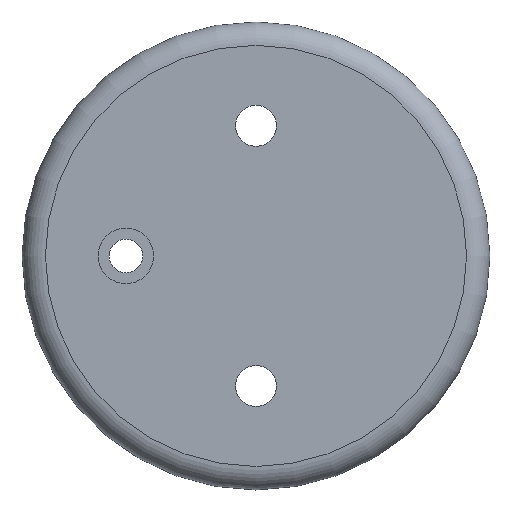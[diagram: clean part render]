
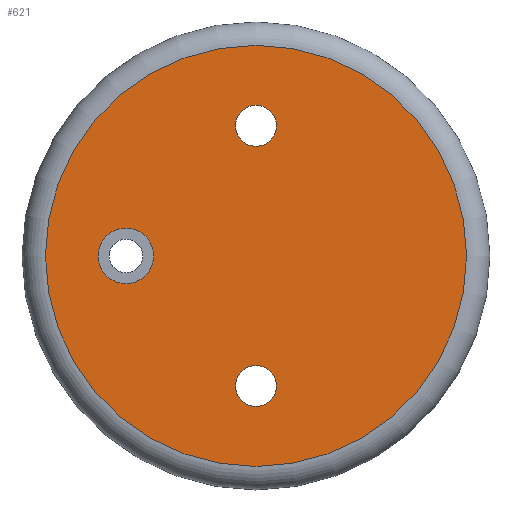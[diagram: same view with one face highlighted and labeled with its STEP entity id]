
A CAD part, top view. The second image highlights one B-rep face of the part: STEP entity #621.
In plain terms, the highlighted planar face has unit normal (0, 0, 1).
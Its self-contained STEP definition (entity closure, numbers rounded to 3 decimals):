
#257 = CYLINDRICAL_SURFACE('',#258,7.);
#258 = AXIS2_PLACEMENT_3D('',#259,#260,#261);
#259 = CARTESIAN_POINT('',(0.,-44.5,1.));
#260 = DIRECTION('',(0.,0.,-1.));
#261 = DIRECTION('',(-1.,0.,-0.));
#292 = CYLINDRICAL_SURFACE('',#293,7.);
#293 = AXIS2_PLACEMENT_3D('',#294,#295,#296);
#294 = CARTESIAN_POINT('',(0.,44.5,1.));
#295 = DIRECTION('',(0.,0.,-1.));
#296 = DIRECTION('',(-1.,0.,-0.));
#424 = VERTEX_POINT('',#425);
#425 = CARTESIAN_POINT('',(-7.,-44.5,0.));
#446 = EDGE_CURVE('',#424,#424,#447,.T.);
#447 = SURFACE_CURVE('',#448,(#453,#460),.PCURVE_S1.);
#448 = CIRCLE('',#449,7.);
#449 = AXIS2_PLACEMENT_3D('',#450,#451,#452);
#450 = CARTESIAN_POINT('',(0.,-44.5,0.));
#451 = DIRECTION('',(0.,0.,-1.));
#452 = DIRECTION('',(-1.,0.,-0.));
#453 = PCURVE('',#257,#454);
#454 = DEFINITIONAL_REPRESENTATION('',(#455),#459);
#455 = LINE('',#456,#457);
#456 = CARTESIAN_POINT('',(0.,1.));
#457 = VECTOR('',#458,1.);
#458 = DIRECTION('',(1.,0.));
#459 = ( GEOMETRIC_REPRESENTATION_CONTEXT(2) 
PARAMETRIC_REPRESENTATION_CONTEXT() REPRESENTATION_CONTEXT('2D SPACE',''
  ) );
#460 = PCURVE('',#461,#466);
#461 = PLANE('',#462);
#462 = AXIS2_PLACEMENT_3D('',#463,#464,#465);
#463 = CARTESIAN_POINT('',(0.,0.,0.));
#464 = DIRECTION('',(0.,0.,1.));
#465 = DIRECTION('',(1.,0.,-0.));
#466 = DEFINITIONAL_REPRESENTATION('',(#467),#475);
#467 = ( BOUNDED_CURVE() B_SPLINE_CURVE(2,(#468,#469,#470,#471,#472,#473
,#474),.UNSPECIFIED.,.T.,.F.) B_SPLINE_CURVE_WITH_KNOTS((1,2,2,2,2,1),(
    -2.094,0.,2.094,4.189,6.283,
8.378),.UNSPECIFIED.) CURVE() GEOMETRIC_REPRESENTATION_ITEM() 
RATIONAL_B_SPLINE_CURVE((1.,0.5,1.,0.5,1.,0.5,1.)) REPRESENTATION_ITEM(
  '') );
#468 = CARTESIAN_POINT('',(-7.,-44.5));
#469 = CARTESIAN_POINT('',(-7.,-32.376));
#470 = CARTESIAN_POINT('',(3.5,-38.438));
#471 = CARTESIAN_POINT('',(14.,-44.5));
#472 = CARTESIAN_POINT('',(3.5,-50.562));
#473 = CARTESIAN_POINT('',(-7.,-56.624));
#474 = CARTESIAN_POINT('',(-7.,-44.5));
#475 = ( GEOMETRIC_REPRESENTATION_CONTEXT(2) 
PARAMETRIC_REPRESENTATION_CONTEXT() REPRESENTATION_CONTEXT('2D SPACE',''
  ) );
#483 = VERTEX_POINT('',#484);
#484 = CARTESIAN_POINT('',(-7.,44.5,0.));
#505 = EDGE_CURVE('',#483,#483,#506,.T.);
#506 = SURFACE_CURVE('',#507,(#512,#519),.PCURVE_S1.);
#507 = CIRCLE('',#508,7.);
#508 = AXIS2_PLACEMENT_3D('',#509,#510,#511);
#509 = CARTESIAN_POINT('',(0.,44.5,0.));
#510 = DIRECTION('',(0.,0.,-1.));
#511 = DIRECTION('',(-1.,0.,-0.));
#512 = PCURVE('',#292,#513);
#513 = DEFINITIONAL_REPRESENTATION('',(#514),#518);
#514 = LINE('',#515,#516);
#515 = CARTESIAN_POINT('',(0.,1.));
#516 = VECTOR('',#517,1.);
#517 = DIRECTION('',(1.,0.));
#518 = ( GEOMETRIC_REPRESENTATION_CONTEXT(2) 
PARAMETRIC_REPRESENTATION_CONTEXT() REPRESENTATION_CONTEXT('2D SPACE',''
  ) );
#519 = PCURVE('',#461,#520);
#520 = DEFINITIONAL_REPRESENTATION('',(#521),#529);
#521 = ( BOUNDED_CURVE() B_SPLINE_CURVE(2,(#522,#523,#524,#525,#526,#527
,#528),.UNSPECIFIED.,.T.,.F.) B_SPLINE_CURVE_WITH_KNOTS((1,2,2,2,2,1),(
    -2.094,0.,2.094,4.189,6.283,
8.378),.UNSPECIFIED.) CURVE() GEOMETRIC_REPRESENTATION_ITEM() 
RATIONAL_B_SPLINE_CURVE((1.,0.5,1.,0.5,1.,0.5,1.)) REPRESENTATION_ITEM(
  '') );
#522 = CARTESIAN_POINT('',(-7.,44.5));
#523 = CARTESIAN_POINT('',(-7.,56.624));
#524 = CARTESIAN_POINT('',(3.5,50.562));
#525 = CARTESIAN_POINT('',(14.,44.5));
#526 = CARTESIAN_POINT('',(3.5,38.438));
#527 = CARTESIAN_POINT('',(-7.,32.376));
#528 = CARTESIAN_POINT('',(-7.,44.5));
#529 = ( GEOMETRIC_REPRESENTATION_CONTEXT(2) 
PARAMETRIC_REPRESENTATION_CONTEXT() REPRESENTATION_CONTEXT('2D SPACE',''
  ) );
#552 = CYLINDRICAL_SURFACE('',#553,9.5);
#553 = AXIS2_PLACEMENT_3D('',#554,#555,#556);
#554 = CARTESIAN_POINT('',(-44.5,0.,-0.5));
#555 = DIRECTION('',(0.,0.,1.));
#556 = DIRECTION('',(1.,0.,-0.));
#621 = ADVANCED_FACE('',(#622,#653,#656,#682),#461,.T.);
#622 = FACE_BOUND('',#623,.F.);
#623 = EDGE_LOOP('',(#624));
#624 = ORIENTED_EDGE('',*,*,#625,.F.);
#625 = EDGE_CURVE('',#626,#626,#628,.T.);
#626 = VERTEX_POINT('',#627);
#627 = CARTESIAN_POINT('',(72.,0.,0.));
#628 = SURFACE_CURVE('',#629,(#634,#641),.PCURVE_S1.);
#629 = CIRCLE('',#630,72.);
#630 = AXIS2_PLACEMENT_3D('',#631,#632,#633);
#631 = CARTESIAN_POINT('',(0.,0.,0.));
#632 = DIRECTION('',(0.,0.,1.));
#633 = DIRECTION('',(1.,0.,-0.));
#634 = PCURVE('',#461,#635);
#635 = DEFINITIONAL_REPRESENTATION('',(#636),#640);
#636 = CIRCLE('',#637,72.);
#637 = AXIS2_PLACEMENT_2D('',#638,#639);
#638 = CARTESIAN_POINT('',(0.,0.));
#639 = DIRECTION('',(1.,-0.));
#640 = ( GEOMETRIC_REPRESENTATION_CONTEXT(2) 
PARAMETRIC_REPRESENTATION_CONTEXT() REPRESENTATION_CONTEXT('2D SPACE',''
  ) );
#641 = PCURVE('',#642,#647);
#642 = TOROIDAL_SURFACE('',#643,72.,8.);
#643 = AXIS2_PLACEMENT_3D('',#644,#645,#646);
#644 = CARTESIAN_POINT('',(0.,0.,-8.));
#645 = DIRECTION('',(-0.,-0.,-1.));
#646 = DIRECTION('',(1.,0.,-0.));
#647 = DEFINITIONAL_REPRESENTATION('',(#648),#652);
#648 = LINE('',#649,#650);
#649 = CARTESIAN_POINT('',(-0.,4.712));
#650 = VECTOR('',#651,1.);
#651 = DIRECTION('',(-1.,0.));
#652 = ( GEOMETRIC_REPRESENTATION_CONTEXT(2) 
PARAMETRIC_REPRESENTATION_CONTEXT() REPRESENTATION_CONTEXT('2D SPACE',''
  ) );
#653 = FACE_BOUND('',#654,.F.);
#654 = EDGE_LOOP('',(#655));
#655 = ORIENTED_EDGE('',*,*,#446,.F.);
#656 = FACE_BOUND('',#657,.F.);
#657 = EDGE_LOOP('',(#658));
#658 = ORIENTED_EDGE('',*,*,#659,.T.);
#659 = EDGE_CURVE('',#660,#660,#662,.T.);
#660 = VERTEX_POINT('',#661);
#661 = CARTESIAN_POINT('',(-35.,0.,0.));
#662 = SURFACE_CURVE('',#663,(#668,#675),.PCURVE_S1.);
#663 = CIRCLE('',#664,9.5);
#664 = AXIS2_PLACEMENT_3D('',#665,#666,#667);
#665 = CARTESIAN_POINT('',(-44.5,0.,0.));
#666 = DIRECTION('',(0.,0.,1.));
#667 = DIRECTION('',(1.,0.,-0.));
#668 = PCURVE('',#461,#669);
#669 = DEFINITIONAL_REPRESENTATION('',(#670),#674);
#670 = CIRCLE('',#671,9.5);
#671 = AXIS2_PLACEMENT_2D('',#672,#673);
#672 = CARTESIAN_POINT('',(-44.5,0.));
#673 = DIRECTION('',(1.,-0.));
#674 = ( GEOMETRIC_REPRESENTATION_CONTEXT(2) 
PARAMETRIC_REPRESENTATION_CONTEXT() REPRESENTATION_CONTEXT('2D SPACE',''
  ) );
#675 = PCURVE('',#552,#676);
#676 = DEFINITIONAL_REPRESENTATION('',(#677),#681);
#677 = LINE('',#678,#679);
#678 = CARTESIAN_POINT('',(0.,0.5));
#679 = VECTOR('',#680,1.);
#680 = DIRECTION('',(1.,0.));
#681 = ( GEOMETRIC_REPRESENTATION_CONTEXT(2) 
PARAMETRIC_REPRESENTATION_CONTEXT() REPRESENTATION_CONTEXT('2D SPACE',''
  ) );
#682 = FACE_BOUND('',#683,.F.);
#683 = EDGE_LOOP('',(#684));
#684 = ORIENTED_EDGE('',*,*,#505,.F.);
